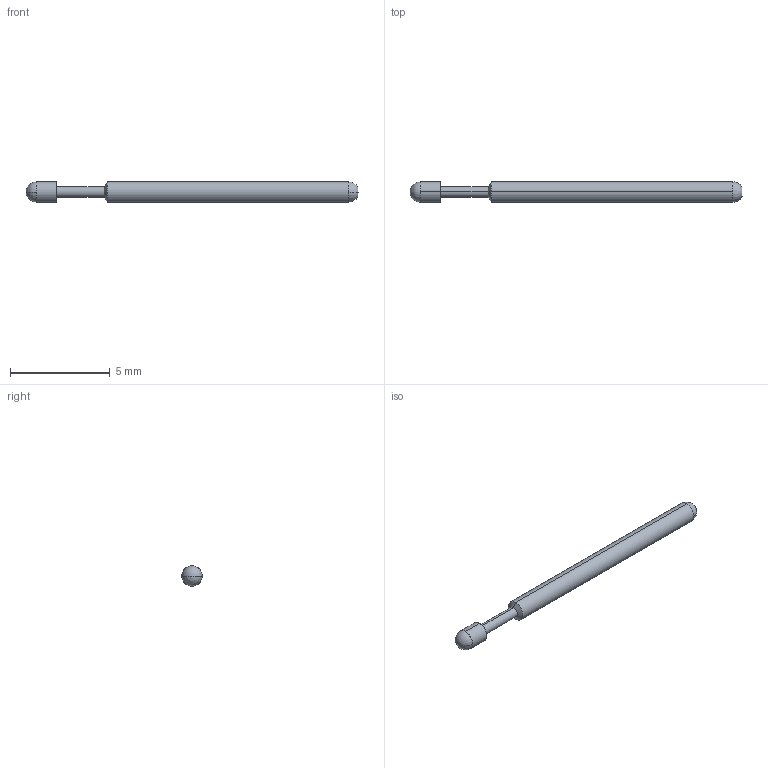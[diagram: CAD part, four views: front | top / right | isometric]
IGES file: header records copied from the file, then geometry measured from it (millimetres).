
Start section: SolidWorks IGES file using analytic representation for surfaces
Global section: file name: Z:\probe solid model mockups\Solidworks models\IGES Files\HPA-1\HPA-1D.IGS; native system: SolidWorks 2006 by SolidWorks Corporation; preprocessor: SolidWorks 2006 by SolidWorks Corporation; author: tsakatani; date: 071220.111908; units: inch
Bounding box: 16.64 x 1.02 x 1.02 mm (x, y, z)
Surface area: 50.4 mm2 (no closed solid volume)
Topology: 0 solids, 0 shells, 14 faces, 104 edges, 102 vertices
Faces by surface type: revolution 12, bspline 2
